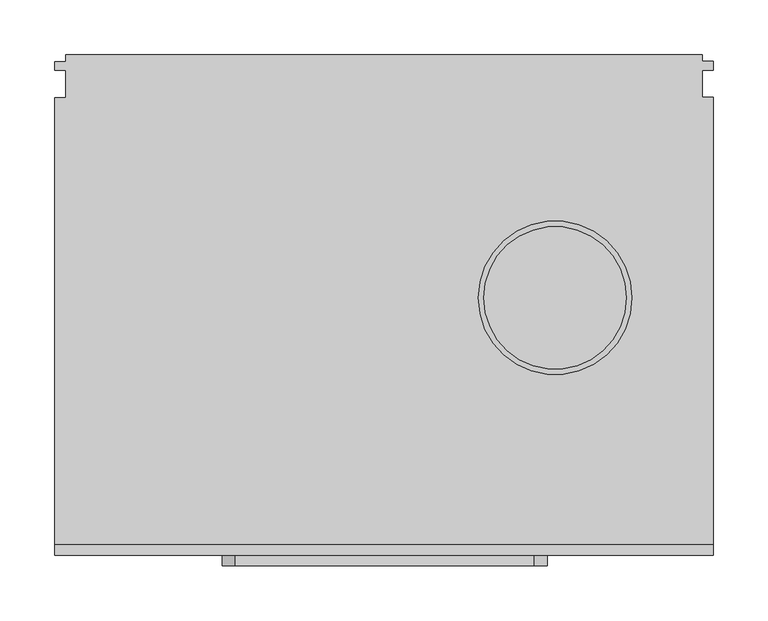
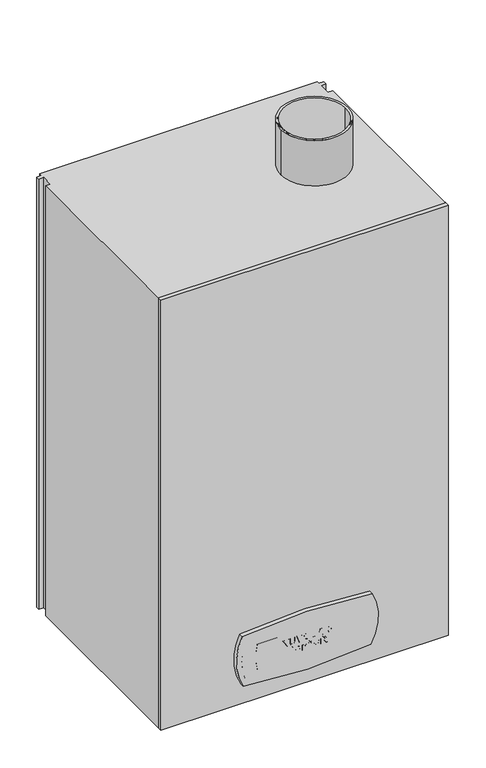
"""IFC4 building model written with IfcOpenShell, lengths in millimetres: proxy geometry, BAXI_ГазовыйКотел_Nuvola-3_Comfort_i : BAXI_Газовый котел_Nuvola-3_Comfort_240 i."""

from ifc_helpers import new_model, si_unit, point, frame, frame_2d, origin, origin_with_axes, place, context, project, spatial, polyline, circle_curve, trimmed, segment, composite_curve, outline, extrude, source, transform, mapped, element, save


def mechanical_equipment_a74dad36(model_context):
    return source(origin(), model_context, "Body", "SweptSolid", [
        extrude(outline(composite_curve([segment(trimmed(circle_curve(frame_2d((156.0, -222.0)), 70.0), [point((86.0, -222.0))], [point((226.0, -222.0))], False, "CARTESIAN"), True, "CONTINUOUS"), segment(trimmed(circle_curve(frame_2d((156.0, -222.0)), 70.0), [point((226.0, -222.0))], [point((86.0, -222.0))], False, "CARTESIAN"), True, "CONTINUOUS")], self_intersect=False), holes=[composite_curve([segment(trimmed(circle_curve(frame_2d((156.0, -222.0)), 65.0), [point((91.0, -222.0))], [point((221.0, -222.0))], True, "CARTESIAN"), True, "CONTINUOUS"), segment(trimmed(circle_curve(frame_2d((156.0, -222.0)), 65.0), [point((221.0, -222.0))], [point((91.0, -222.0))], True, "CARTESIAN"), True, "CONTINUOUS")], self_intersect=False)]), frame((0.0, 0.0, 950.0), z_axis=(0.0, 0.0, 1.0), x_axis=(1.0, 0.0, 0.0)), (0.0, 0.0, 1.0), 100.0),
        extrude(outline(composite_curve([segment(trimmed(circle_curve(frame_2d((156.0, -222.0)), 67.5), [point((88.5, -222.0))], [point((223.5, -222.0))], False, "CARTESIAN"), True, "CONTINUOUS"), segment(trimmed(circle_curve(frame_2d((156.0, -222.0)), 67.5), [point((223.5, -222.0))], [point((88.5, -222.0))], False, "CARTESIAN"), True, "CONTINUOUS")], self_intersect=False), holes=[composite_curve([segment(trimmed(circle_curve(frame_2d((156.0, -222.0)), 65.0), [point((91.0, -222.0))], [point((221.0, -222.0))], True, "CARTESIAN"), True, "CONTINUOUS"), segment(trimmed(circle_curve(frame_2d((156.0, -222.0)), 65.0), [point((221.0, -222.0))], [point((91.0, -222.0))], True, "CARTESIAN"), True, "CONTINUOUS")], self_intersect=False)]), frame((0.0, 0.0, 950.0), z_axis=(0.0, 0.0, 1.0), x_axis=(1.0, 0.0, 0.0)), (0.0, 0.0, 1.0), 100.0),
        extrude(outline(composite_curve([segment(trimmed(circle_curve(frame_2d((127.6, -222.0)), 10.0), [point((117.6, -222.0))], [point((137.6, -222.0))], False, "CARTESIAN"), True, "CONTINUOUS"), segment(trimmed(circle_curve(frame_2d((127.6, -222.0)), 10.0), [point((137.6, -222.0))], [point((117.6, -222.0))], False, "CARTESIAN"), True, "CONTINUOUS")], self_intersect=False)), origin_with_axes(), (0.0, 0.0, 1.0), 27.0),
        extrude(outline(composite_curve([segment(trimmed(circle_curve(frame_2d((237.6, -222.0)), 10.0), [point((227.6, -222.0))], [point((247.6, -222.0))], False, "CARTESIAN"), True, "CONTINUOUS"), segment(trimmed(circle_curve(frame_2d((237.6, -222.0)), 10.0), [point((247.6, -222.0))], [point((227.6, -222.0))], False, "CARTESIAN"), True, "CONTINUOUS")], self_intersect=False)), origin_with_axes(), (0.0, 0.0, 1.0), 27.0),
        extrude(outline(composite_curve([segment(trimmed(circle_curve(frame_2d((-92.4, -222.0)), 7.5), [point((-99.9, -222.0))], [point((-84.9, -222.0))], False, "CARTESIAN"), True, "CONTINUOUS"), segment(trimmed(circle_curve(frame_2d((-92.4, -222.0)), 7.5), [point((-84.9, -222.0))], [point((-99.9, -222.0))], False, "CARTESIAN"), True, "CONTINUOUS")], self_intersect=False)), origin_with_axes(), (0.0, 0.0, 1.0), 27.0),
        extrude(outline(composite_curve([segment(trimmed(circle_curve(frame_2d((-202.4, -222.0)), 7.5), [point((-209.9, -222.0))], [point((-194.9, -222.0))], False, "CARTESIAN"), True, "CONTINUOUS"), segment(trimmed(circle_curve(frame_2d((-202.4, -222.0)), 7.5), [point((-194.9, -222.0))], [point((-209.9, -222.0))], False, "CARTESIAN"), True, "CONTINUOUS")], self_intersect=False)), origin_with_axes(), (0.0, 0.0, 1.0), 27.0),
        extrude(outline(composite_curve([segment(trimmed(circle_curve(frame_2d((17.6, -222.0)), 10.0), [point((7.6, -222.0))], [point((27.6, -222.0))], False, "CARTESIAN"), True, "CONTINUOUS"), segment(trimmed(circle_curve(frame_2d((17.6, -222.0)), 10.0), [point((27.6, -222.0))], [point((7.6, -222.0))], False, "CARTESIAN"), True, "CONTINUOUS")], self_intersect=False)), origin_with_axes(), (0.0, 0.0, 1.0), 27.0),
        extrude(outline(polyline([(290.0, -0.5), (290.0, -6.3249142), (300.0, -6.3249142), (300.0, -14.3064522), (290.0, -14.3064522), (290.0, -38.999666), (300.0, -38.999666), (300.0, -446.5), (-300.0, -446.5), (-300.0, -39.3721844), (-290.0, -39.3721844), (-290.0, -14.3064522), (-300.0, -14.3064522), (-300.0, -6.9817422), (-290.0, -6.9817422), (-290.0, -0.5), (290.0, -0.5)])), origin_with_axes(), (0.0, 0.0, 1.0), 950.0),
        extrude(outline(composite_curve([segment(trimmed(circle_curve(frame_2d((102.8050056, 36.0579305)), 113.0377953), [point((44.5229819, 132.9121967))], [point((155.0777011, 136.2832191))], False, "CARTESIAN"), True, "CONTINUOUS"), segment(trimmed(circle_curve(frame_2d((-914.6432516, 0.0010152)), 1078.3671711), [point((155.0777011, 136.2832191))], [point((155.1720095, -135.538879))], False, "CARTESIAN"), True, "CONTINUOUS"), segment(trimmed(circle_curve(frame_2d((102.1068486, -27.2942008)), 120.5521533), [point((155.1720095, -135.538879))], [point((44.5621896, -133.2254705))], False, "CARTESIAN"), True, "CONTINUOUS"), segment(trimmed(circle_curve(frame_2d((1114.6680065, 0.0010152)), 1078.3671711), [point((44.5621896, -133.2254705))], [point((44.5229819, 132.9121967))], False, "CARTESIAN"), True, "CONTINUOUS")], self_intersect=False)), frame((0.0, -466.0, 0.0), z_axis=(0.0, 1.0, 0.0), x_axis=(0.0, 0.0, 1.0)), (0.0, 0.0, 1.0), 19.5),
        extrude(outline(polyline([(100.9652945, -51.0307757), (100.9652945, -48.1157488), (111.11475, -48.1157488), (100.9652945, -41.7922661), (100.9652945, -38.6419115), (116.2691855, -38.6419115), (116.2691855, -41.5569384), (105.9679057, -41.5569384), (116.2691855, -47.9753113), (116.2691855, -51.0307757), (100.9652945, -51.0307757)])), frame((0.0, -466.0, 0.0), z_axis=(0.0, 1.0, 0.0), x_axis=(0.0, 0.0, 1.0)), (0.0, 0.0, 1.0), 5.0),
        extrude(outline(polyline([(116.2691855, -35.7268847), (108.1162197, -35.7268847), (104.2371085, -35.4194404), (102.5404717, -34.5388594), (101.2271914, -32.7207632), (100.7223756, -29.3464678), (101.1854397, -26.3574266), (102.4322969, -24.5298414), (104.3509767, -23.5923263), (108.2414748, -23.3380205), (116.2691855, -23.3380205), (116.2691855, -26.2530474), (107.8353447, -26.2530474), (103.9296642, -27.2759637), (103.3944835, -29.4375624), (103.9619269, -31.657993), (105.4630898, -32.6866028), (108.0137383, -32.8118578), (116.2691855, -32.8118578), (116.2691855, -35.7268847)])), frame((0.0, -466.0, 0.0), z_axis=(0.0, 1.0, 0.0), x_axis=(0.0, 0.0, 1.0)), (0.0, 0.0, 1.0), 5.0),
        extrude(outline(polyline([(100.9652945, -16.722276), (100.9652945, -13.4656444), (116.2691855, -8.0341295), (116.2691855, -11.0971851), (104.8519969, -14.9573183), (116.2691855, -18.8060647), (116.2691855, -21.8805071), (100.9652945, -16.722276)])), frame((0.0, -466.0, 0.0), z_axis=(0.0, 1.0, 0.0), x_axis=(0.0, 0.0, 1.0)), (0.0, 0.0, 1.0), 5.0),
        extrude(outline(polyline([(108.5223498, -6.819535), (102.8004709, -4.8420233), (100.7223756, 0.4870102), (102.8099599, 5.7780876), (108.5982619, 7.7555993), (114.4188266, 5.7629051), (116.5121044, 0.4490541), (115.9086027, -2.792395), (114.5326949, -4.7338485), (112.4394171, -6.13253), (108.5223498, -6.819535)]), holes=[polyline([(108.6286268, -3.9045081), (112.5418985, -2.6975048), (113.8399964, 0.4832146), (112.557081, 3.6487515), (108.6703785, 4.8405724), (104.7134573, 3.6164889), (103.3944835, 0.4832146), (104.7229463, -2.6652422), (108.6286268, -3.9045081)])]), frame((0.0, -466.0, 0.0), z_axis=(0.0, 1.0, 0.0), x_axis=(0.0, 0.0, 1.0)), (0.0, 0.0, 1.0), 5.0),
        extrude(outline(polyline([(100.9652945, 10.1847883), (100.9652945, 20.8732201), (103.6374024, 20.8732201), (103.6374024, 13.0998152), (116.2691855, 13.0998152), (116.2691855, 10.1847883), (100.9652945, 10.1847883)])), frame((0.0, -466.0, 0.0), z_axis=(0.0, 1.0, 0.0), x_axis=(0.0, 0.0, 1.0)), (0.0, 0.0, 1.0), 5.0),
        extrude(outline(polyline([(100.9652945, 35.9341922), (116.2691855, 30.2939189), (116.2691855, 27.1891117), (100.9652945, 21.6019769), (100.9652945, 24.7067841), (104.3661591, 25.8910138), (104.3661591, 31.6717246), (100.9652945, 32.8711367), (100.9652945, 35.9341922)]), holes=[polyline([(107.0382671, 30.738005), (107.0382671, 26.8247333), (112.6254019, 28.7680845), (107.0382671, 30.738005)])]), frame((0.0, -466.0, 0.0), z_axis=(0.0, 1.0, 0.0), x_axis=(0.0, 0.0, 1.0)), (0.0, 0.0, 1.0), 5.0),
        extrude(outline(polyline([(36.9058679, -461.0), (42.7359216, -461.0), (42.7359216, -466.0), (36.9058679, -466.0), (36.9058679, -461.0)])), frame((0.0, 0.0, 105.0949159), z_axis=(0.0, 0.0, 1.0), x_axis=(1.0, 0.0, 0.0)), (0.0, 0.0, 1.0), 2.672108),
        extrude(outline(polyline([(105.2429446, 43.9505161), (101.9730284, 45.4668614), (100.7223756, 48.7595513), (102.1286483, 52.2609996), (105.5276152, 53.6672723), (107.8751986, 52.8739902), (109.1258514, 50.756041), (112.3407313, 52.9385156), (114.8913798, 51.9212927), (116.2691855, 48.6494787), (115.7719608, 46.4954712), (114.4074398, 44.9962061), (112.0902212, 44.193435), (110.1962129, 48.0915243), (107.4064411, 50.2417362), (105.7705341, 50.7522454), (103.9562335, 47.5221831), (105.5807537, 46.8655429), (105.2429446, 43.9505161)])), frame((0.0, -466.0, 0.0), z_axis=(0.0, 1.0, 0.0), x_axis=(0.0, 0.0, 1.0)), (0.0, 0.0, 1.0), 5.0),
        extrude(outline(polyline([(87.9086457, -28.560777), (85.5117193, -29.9025244), (84.7506999, -32.132444), (85.9425208, -34.9924345), (89.9430915, -36.091263), (93.7709621, -34.9582741), (94.9532939, -32.0071889), (94.3023472, -29.7696781), (92.5241049, -28.560777), (93.0099427, -25.6457501), (95.9135827, -27.2209274), (97.6254019, -31.8060217), (95.5492044, -37.0230848), (89.7191507, -39.0062899), (84.1244246, -37.040165), (82.078592, -32.0185758), (83.2761063, -27.9420929), (86.9369701, -25.6457501), (87.9086457, -28.560777)])), frame((0.0, -466.0, 0.0), z_axis=(0.0, 1.0, 0.0), x_axis=(0.0, 0.0, 1.0)), (0.0, 0.0, 1.0), 5.0),
        extrude(outline(polyline([(87.8251423, -23.9453178), (84.5609196, -23.2260501), (82.5283715, -21.1270789), (81.8356731, -18.2253367), (83.5000472, -14.1488538), (87.6960917, -12.5281293), (91.8522823, -14.1317736), (93.4957805, -18.2481104), (92.7708194, -21.1897065), (90.6699504, -23.2260501), (87.8251423, -23.9453178)]), holes=[polyline([(87.6657268, -21.0302909), (90.3700974, -20.2237243), (91.3095104, -18.2329279), (90.3700974, -16.2459272), (87.6885005, -15.4431561), (84.9613562, -16.2459272), (84.0219432, -18.2329279), (84.9613562, -20.2237243), (87.6657268, -21.0302909)])]), frame((0.0, -466.0, 0.0), z_axis=(0.0, 1.0, 0.0), x_axis=(0.0, 0.0, 1.0)), (0.0, 0.0, 1.0), 5.0),
        extrude(outline(polyline([(93.2528616, -10.584778), (82.078592, -10.584778), (82.078592, -7.6697512), (87.548063, -7.6697512), (90.3663018, -4.1777919), (88.2464548, -4.0259676), (82.078592, -4.0259676), (82.078592, -1.1109407), (87.4835376, -1.1109407), (90.6718483, 2.2367854), (88.5121474, 2.5328428), (82.078592, 2.5328428), (82.078592, 5.4478697), (89.2181304, 5.4478697), (91.5296556, 5.1518123), (92.9966581, 3.9068529), (93.4957805, 1.8762027), (93.0687746, 0.0979604), (91.7763701, -1.4525455), (93.0687746, -2.6652422), (93.4957805, -4.409324), (93.2528616, -7.6697512), (93.2528616, -10.584778)])), frame((0.0, -466.0, 0.0), z_axis=(0.0, 1.0, 0.0), x_axis=(0.0, 0.0, 1.0)), (0.0, 0.0, 1.0), 5.0),
        extrude(outline(polyline([(93.2528616, 7.148302), (91.0665915, 8.6058154), (82.078592, 8.6058154), (82.078592, 11.5208423), (91.0665915, 11.5208423), (91.0665915, 13.7071124), (93.2528616, 13.7071124), (95.2759206, 14.0714908), (97.2610235, 14.4358692), (97.6254019, 11.9990889), (96.1071587, 8.9018729), (93.2528616, 7.148302)])), frame((0.0, -466.0, 0.0), z_axis=(0.0, 1.0, 0.0), x_axis=(0.0, 0.0, 1.0)), (0.0, 0.0, 1.0), 5.0),
        extrude(outline(polyline([(87.8251423, 14.6787881), (84.5609196, 15.3980558), (82.5283715, 17.4970269), (81.8356731, 20.3987692), (83.5000472, 24.475252), (87.6960917, 26.0959766), (91.8522823, 24.4923323), (93.4957805, 20.3759955), (92.7708194, 17.4343994), (90.6699504, 15.3980558), (87.8251423, 14.6787881)]), holes=[polyline([(87.6657268, 17.5938149), (90.3700974, 18.4003816), (91.3095104, 20.3911779), (90.3700974, 22.3781787), (87.6885005, 23.1809497), (84.9613562, 22.3781787), (84.0219432, 20.3911779), (84.9613562, 18.4003816), (87.6657268, 17.5938149)])]), frame((0.0, -466.0, 0.0), z_axis=(0.0, 1.0, 0.0), x_axis=(0.0, 0.0, 1.0)), (0.0, 0.0, 1.0), 5.0),
        extrude(outline(polyline([(82.078592, 31.1972736), (85.4225225, 31.1972736), (90.1063027, 34.4766788), (92.880892, 35.326895), (93.1484824, 32.3625252), (93.2528616, 31.1972736), (93.2528616, 28.2822467), (82.078592, 28.2822467), (82.078592, 31.1972736)])), frame((0.0, -466.0, 0.0), z_axis=(0.0, 1.0, 0.0), x_axis=(0.0, 0.0, 1.0)), (0.0, 0.0, 1.0), 5.0),
        extrude(outline(polyline([(93.2528616, 41.8857054), (93.2528616, 39.6994353), (97.1395641, 39.6994353), (95.4391318, 36.7844084), (93.2528616, 35.326895), (91.0665915, 36.7844084), (86.1095276, 36.7844084), (81.8356731, 39.7411869), (82.2304163, 42.1286243), (84.5779998, 39.7658584), (86.2727387, 39.6994353), (91.0665915, 39.6994353), (91.0665915, 41.8857054), (93.2528616, 41.8857054)])), frame((0.0, -466.0, 0.0), z_axis=(0.0, 1.0, 0.0), x_axis=(0.0, 0.0, 1.0)), (0.0, 0.0, 1.0), 5.0),
        extrude(outline(composite_curve([segment(polyline([(300.0, -446.0), (300.0, -456.5071393)]), True, "CONTINUOUS"), segment(trimmed(circle_curve(frame_2d((0.0, 8312.6346078)), 8774.2718776), [point((300.0, -456.5071393))], [point((-300.0, -456.5071393))], False, "CARTESIAN"), True, "CONTINUOUS"), segment(polyline([(-300.0, -456.5071393), (-300.0, -446.0), (300.0, -446.0)]), True, "CONTINUOUS")], self_intersect=False)), origin_with_axes(), (0.0, 0.0, 1.0), 950.0),
        extrude(outline(composite_curve([segment(trimmed(circle_curve(frame_2d((105.2189891, -11.247552)), 118.7072636), [point((71.7506502, 102.6439961))], [point((128.0124799, 105.2508222))], False, "CARTESIAN"), True, "CONTINUOUS"), segment(trimmed(circle_curve(frame_2d((-907.5774483, 0.0010152)), 1040.9245992), [point((128.0124799, 105.2508222))], [point((128.103276, -104.3515537))], False, "CARTESIAN"), True, "CONTINUOUS"), segment(trimmed(circle_curve(frame_2d((100.0123774, 12.9285221)), 120.5973248), [point((128.103276, -104.3515537))], [point((71.9214789, -104.3515537))], False, "CARTESIAN"), True, "CONTINUOUS"), segment(trimmed(circle_curve(frame_2d((1107.6022032, 0.0010152)), 1040.9245992), [point((71.9214789, -104.3515537))], [point((71.7506502, 102.6439961))], False, "CARTESIAN"), True, "CONTINUOUS")], self_intersect=False)), frame((0.0, -466.0, 0.0), z_axis=(0.0, 1.0, 0.0), x_axis=(0.0, 0.0, 1.0)), (0.0, 0.0, 1.0), 19.5),
        extrude(outline(composite_curve([segment(trimmed(circle_curve(frame_2d((-951.1411839, -1.4813832)), 1097.5486285), [point((138.5870316, 129.3062628))], [point((138.837638, -130.1637817))], False, "CARTESIAN"), True, "CONTINUOUS"), segment(trimmed(circle_curve(frame_2d((100.0123774, -18.9163162)), 117.8278381), [point((138.837638, -130.1637817))], [point((61.1871168, -130.1637817))], False, "CARTESIAN"), True, "CONTINUOUS"), segment(trimmed(circle_curve(frame_2d((1151.1659388, -1.4813832)), 1097.5486285), [point((61.1871168, -130.1637817))], [point((61.2790464, 127.9773123))], False, "CARTESIAN"), True, "CONTINUOUS"), segment(trimmed(circle_curve(frame_2d((101.3895262, 43.91471)), 93.1416754), [point((61.2790464, 127.9773123))], [point((138.5870316, 129.3062628))], False, "CARTESIAN"), True, "CONTINUOUS")], self_intersect=False)), frame((0.0, -466.0, 0.0), z_axis=(0.0, 1.0, 0.0), x_axis=(0.0, 0.0, 1.0)), (0.0, 0.0, 1.0), 19.5),
    ])


if __name__ == "__main__":
    model = new_model("IFC4")
    model_context = context("Model", 3, world=origin())
    ifc_project = project(units=[si_unit("LENGTHUNIT", "METRE", prefix="MILLI")], contexts=[model_context])
    site = spatial("IfcSite", under=ifc_project)
    building = spatial("IfcBuilding", under=site)
    placement = place(None, origin())
    mechanical_equipment_shape = mechanical_equipment_a74dad36(model_context)
    element("IfcBuildingElementProxy", 1, Name="BAXI_ГазовыйКотел_Nuvola-3_Comfort_i : BAXI_Газовый котел_Nuvola-3_Comfort_240 i", ObjectType="BAXI_ГазовыйКотел_Nuvola-3_Comfort_i : BAXI_Газовый котел_Nuvola-3_Comfort_240 i", at=placement, inside=building, context=model_context, shape_type="MappedRepresentation", body=[
        mapped(mechanical_equipment_shape, transform((0.0, 0.0, 0.0), x_axis=(1.0, 0.0, 0.0), y_axis=(0.0, 1.0, 0.0), z_axis=(0.0, 0.0, 1.0))),
    ])
    save(model, "model.ifc")
